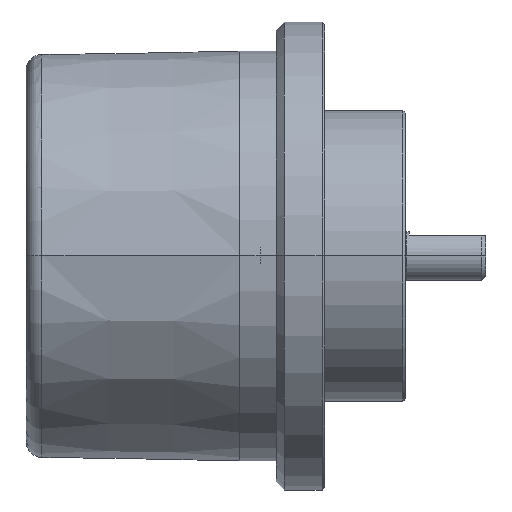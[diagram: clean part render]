
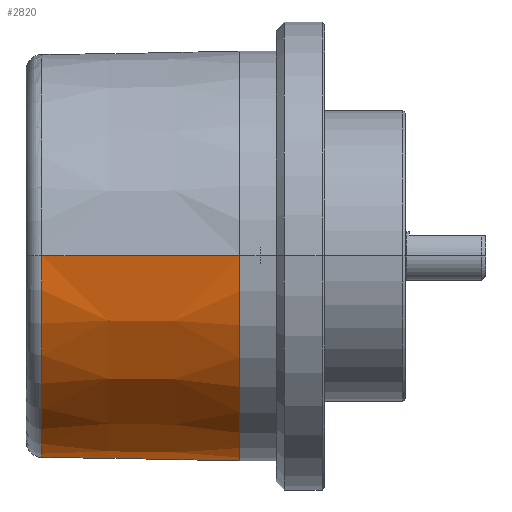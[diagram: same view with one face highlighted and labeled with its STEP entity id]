
A CAD part, top view. The second image highlights one B-rep face of the part: STEP entity #2820.
In plain terms, the highlighted conical face has half-angle 1 degrees and reference radius 25.4 mm.
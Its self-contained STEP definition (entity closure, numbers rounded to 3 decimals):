
#2807 = ORIENTED_EDGE ( 'NONE', *, *, #2875, .T. ) ;
#2809 = ORIENTED_EDGE ( 'NONE', *, *, #2826, .T. ) ;
#2812 = EDGE_CURVE ( 'NONE', #2819, #2815, #14815, .T. ) ;
#2814 = ORIENTED_EDGE ( 'NONE', *, *, #2812, .T. ) ;
#2815 = VERTEX_POINT ( 'NONE', #14814 ) ;
#2816 = EDGE_CURVE ( 'NONE', #3201, #2819, #14864, .T. ) ;
#2818 = ORIENTED_EDGE ( 'NONE', *, *, #2816, .T. ) ;
#2819 = VERTEX_POINT ( 'NONE', #14860 ) ;
#2820 = ADVANCED_FACE ( 'NONE', ( #14855 ), #14899, .T. ) ;
#2821 = ORIENTED_EDGE ( 'NONE', *, *, #3393, .F. ) ;
#2822 = EDGE_LOOP ( 'NONE', ( #2821, #2818, #2814, #2886, #2807, #2809 ) ) ;
#2826 = EDGE_CURVE ( 'NONE', #2830, #3349, #14887, .T. ) ;
#2830 = VERTEX_POINT ( 'NONE', #14875 ) ;
#2875 = EDGE_CURVE ( 'NONE', #2877, #2830, #15070, .T. ) ;
#2877 = VERTEX_POINT ( 'NONE', #15097 ) ;
#2886 = ORIENTED_EDGE ( 'NONE', *, *, #2887, .F. ) ;
#2887 = EDGE_CURVE ( 'NONE', #2877, #2815, #15085, .T. ) ;
#3201 = VERTEX_POINT ( 'NONE', #16054 ) ;
#3349 = VERTEX_POINT ( 'NONE', #16608 ) ;
#3393 = EDGE_CURVE ( 'NONE', #3201, #3349, #16748, .T. ) ;
#14814 = CARTESIAN_POINT ( 'NONE',  ( -19., -16.728, -18.542 ) ) ;
#14815 = B_SPLINE_CURVE_WITH_KNOTS ( 'NONE', 3,
 ( #14869, #14868, #14867, #14866 ),
 .UNSPECIFIED., .F., .F.,
 ( 4, 4 ),
 ( 0., 0. ),
 .UNSPECIFIED. ) ;
#14816 = CARTESIAN_POINT ( 'NONE',  ( -19.035, 0., 0. ) ) ;
#14855 = FACE_OUTER_BOUND ( 'NONE', #2822, .T. ) ;
#14860 = CARTESIAN_POINT ( 'NONE',  ( -19.035, -16.728, -18.541 ) ) ;
#14861 = DIRECTION ( 'NONE',  ( 0., 0., -1. ) ) ;
#14862 = DIRECTION ( 'NONE',  ( 1., 0., 0. ) ) ;
#14863 = AXIS2_PLACEMENT_3D ( 'NONE', #14816, #14862, #14861 ) ;
#14864 = CIRCLE ( 'NONE', #14863, 24.972 ) ;
#14866 = CARTESIAN_POINT ( 'NONE',  ( -19., -16.728, -18.542 ) ) ;
#14867 = CARTESIAN_POINT ( 'NONE',  ( -19.012, -16.728, -18.541 ) ) ;
#14868 = CARTESIAN_POINT ( 'NONE',  ( -19.023, -16.728, -18.541 ) ) ;
#14869 = CARTESIAN_POINT ( 'NONE',  ( -19.035, -16.728, -18.541 ) ) ;
#14875 = CARTESIAN_POINT ( 'NONE',  ( 5.5, -12.989, -21.828 ) ) ;
#14883 = DIRECTION ( 'NONE',  ( 0., 0., -1. ) ) ;
#14884 = DIRECTION ( 'NONE',  ( -1., 0., 0. ) ) ;
#14885 = CARTESIAN_POINT ( 'NONE',  ( 5.5, 0., 0. ) ) ;
#14886 = AXIS2_PLACEMENT_3D ( 'NONE', #14885, #14884, #14883 ) ;
#14887 = CIRCLE ( 'NONE', #14886, 25.4 ) ;
#14895 = DIRECTION ( 'NONE',  ( 0., 0., 1. ) ) ;
#14896 = DIRECTION ( 'NONE',  ( 1., 0., 0. ) ) ;
#14897 = CARTESIAN_POINT ( 'NONE',  ( 5.5, 0., 0. ) ) ;
#14898 = AXIS2_PLACEMENT_3D ( 'NONE', #14897, #14896, #14895 ) ;
#14899 = CONICAL_SURFACE ( 'NONE', #14898, 25.4, 0.017 ) ;
#15045 = CARTESIAN_POINT ( 'NONE',  ( 5.5, -12.989, -21.828 ) ) ;
#15046 = CARTESIAN_POINT ( 'NONE',  ( 5.5, -13.341, -21.618 ) ) ;
#15047 = CARTESIAN_POINT ( 'NONE',  ( 5.461, -13.682, -21.403 ) ) ;
#15048 = CARTESIAN_POINT ( 'NONE',  ( 5.317, -14.347, -20.96 ) ) ;
#15049 = CARTESIAN_POINT ( 'NONE',  ( 5.21, -14.672, -20.731 ) ) ;
#15050 = CARTESIAN_POINT ( 'NONE',  ( 4.995, -15.13, -20.392 ) ) ;
#15051 = CARTESIAN_POINT ( 'NONE',  ( 4.914, -15.278, -20.28 ) ) ;
#15052 = CARTESIAN_POINT ( 'NONE',  ( 4.727, -15.562, -20.058 ) ) ;
#15053 = CARTESIAN_POINT ( 'NONE',  ( 4.62, -15.701, -19.947 ) ) ;
#15054 = CARTESIAN_POINT ( 'NONE',  ( 4.436, -15.89, -19.792 ) ) ;
#15055 = CARTESIAN_POINT ( 'NONE',  ( 4.37, -15.95, -19.742 ) ) ;
#15056 = CARTESIAN_POINT ( 'NONE',  ( 4.228, -16.062, -19.648 ) ) ;
#15057 = CARTESIAN_POINT ( 'NONE',  ( 4.151, -16.115, -19.603 ) ) ;
#15058 = CARTESIAN_POINT ( 'NONE',  ( 3.902, -16.252, -19.484 ) ) ;
#15059 = CARTESIAN_POINT ( 'NONE',  ( 3.708, -16.315, -19.426 ) ) ;
#15060 = CARTESIAN_POINT ( 'NONE',  ( 3.5, -16.319, -19.418 ) ) ;
#15070 = B_SPLINE_CURVE_WITH_KNOTS ( 'NONE', 3,
 ( #15060, #15059, #15058, #15057, #15056, #15055, #15054, #15053, #15052, #15051, #15050, #15049, #15048, #15047, #15046, #15045 ),
 .UNSPECIFIED., .F., .F.,
 ( 4, 2, 2, 2, 2, 2, 2, 4 ),
 ( 0., 0.001, 0.001, 0.001, 0.002, 0.002, 0.004, 0.005 ),
 .UNSPECIFIED. ) ;
#15080 = CARTESIAN_POINT ( 'NONE',  ( -19., -16.728, -18.542 ) ) ;
#15081 = CARTESIAN_POINT ( 'NONE',  ( -11.501, -16.586, -18.846 ) ) ;
#15082 = CARTESIAN_POINT ( 'NONE',  ( -4.001, -16.45, -19.137 ) ) ;
#15083 = CARTESIAN_POINT ( 'NONE',  ( 3.5, -16.319, -19.418 ) ) ;
#15085 = B_SPLINE_CURVE_WITH_KNOTS ( 'NONE', 3,
 ( #15083, #15082, #15081, #15080 ),
 .UNSPECIFIED., .F., .F.,
 ( 4, 4 ),
 ( 0.002, 0.025 ),
 .UNSPECIFIED. ) ;
#15097 = CARTESIAN_POINT ( 'NONE',  ( 3.5, -16.319, -19.418 ) ) ;
#16054 = CARTESIAN_POINT ( 'NONE',  ( -19.035, 0., 24.972 ) ) ;
#16608 = CARTESIAN_POINT ( 'NONE',  ( 5.5, 0., 25.4 ) ) ;
#16745 = DIRECTION ( 'NONE',  ( 1., 0., 0.017 ) ) ;
#16746 = VECTOR ( 'NONE', #16745, 1000. ) ;
#16747 = CARTESIAN_POINT ( 'NONE',  ( 5.5, 0., 25.4 ) ) ;
#16748 = LINE ( 'NONE', #16747, #16746 ) ;
